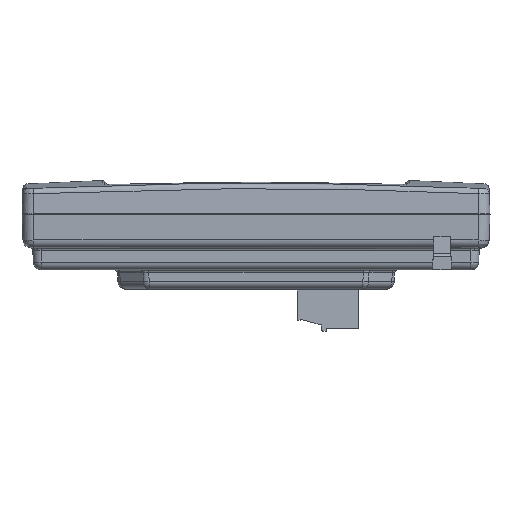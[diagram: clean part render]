
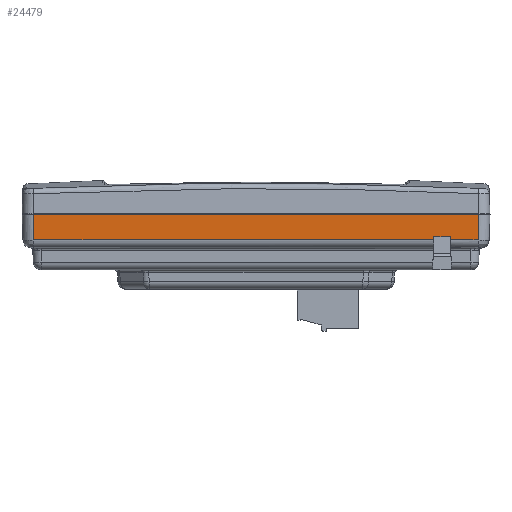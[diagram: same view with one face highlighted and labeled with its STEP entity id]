
A CAD part, left-side view. The second image highlights one B-rep face of the part: STEP entity #24479.
In plain terms, the highlighted planar face has unit normal (-0.999, 0, -0.035).
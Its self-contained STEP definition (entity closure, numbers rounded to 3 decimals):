
#1678=FACE_OUTER_BOUND('',#2989,.T.);
#2989=EDGE_LOOP('',(#19286,#19287,#19288,#19289,#19290,#19291,#19292,#19293));
#5351=LINE('',#41539,#7945);
#5466=LINE('',#42312,#8060);
#5468=LINE('',#42319,#8062);
#5469=LINE('',#42321,#8063);
#5470=LINE('',#42322,#8064);
#5471=LINE('',#42324,#8065);
#5472=LINE('',#42326,#8066);
#5473=LINE('',#42327,#8067);
#7945=VECTOR('',#30525,1000.);
#8060=VECTOR('',#30852,1000.);
#8062=VECTOR('',#30858,1000.);
#8063=VECTOR('',#30859,1000.);
#8064=VECTOR('',#30860,1000.);
#8065=VECTOR('',#30861,1000.);
#8066=VECTOR('',#30862,1000.);
#8067=VECTOR('',#30863,1000.);
#10506=VERTEX_POINT('',#41536);
#10507=VERTEX_POINT('',#41538);
#10673=VERTEX_POINT('',#42311);
#10675=VERTEX_POINT('',#42317);
#10676=VERTEX_POINT('',#42318);
#10677=VERTEX_POINT('',#42320);
#10678=VERTEX_POINT('',#42323);
#10679=VERTEX_POINT('',#42325);
#13437=EDGE_CURVE('',#10506,#10507,#5351,.T.);
#13644=EDGE_CURVE('',#10673,#10506,#5466,.T.);
#13647=EDGE_CURVE('',#10675,#10676,#5468,.T.);
#13648=EDGE_CURVE('',#10675,#10677,#5469,.T.);
#13649=EDGE_CURVE('',#10677,#10507,#5470,.T.);
#13650=EDGE_CURVE('',#10678,#10673,#5471,.T.);
#13651=EDGE_CURVE('',#10678,#10679,#5472,.T.);
#13652=EDGE_CURVE('',#10676,#10679,#5473,.T.);
#19286=ORIENTED_EDGE('',*,*,#13647,.F.);
#19287=ORIENTED_EDGE('',*,*,#13648,.T.);
#19288=ORIENTED_EDGE('',*,*,#13649,.T.);
#19289=ORIENTED_EDGE('',*,*,#13437,.F.);
#19290=ORIENTED_EDGE('',*,*,#13644,.F.);
#19291=ORIENTED_EDGE('',*,*,#13650,.F.);
#19292=ORIENTED_EDGE('',*,*,#13651,.T.);
#19293=ORIENTED_EDGE('',*,*,#13652,.F.);
#22248=PLANE('',#26017);
#24479=ADVANCED_FACE('',(#1678),#22248,.T.);
#26017=AXIS2_PLACEMENT_3D('',#42316,#30856,#30857);
#30525=DIRECTION('',(0.,-1.,0.));
#30852=DIRECTION('',(-0.035,0.035,0.999));
#30856=DIRECTION('center_axis',(-0.999,0.,-0.035));
#30857=DIRECTION('ref_axis',(-0.035,0.,0.999));
#30858=DIRECTION('',(-0.035,0.035,0.999));
#30859=DIRECTION('',(0.,-1.,0.));
#30860=DIRECTION('',(-0.035,-0.035,0.999));
#30861=DIRECTION('',(0.,1.,0.));
#30862=DIRECTION('',(-0.035,-0.035,0.999));
#30863=DIRECTION('',(0.,1.,0.));
#41536=CARTESIAN_POINT('',(-42.5,40.501,2.47));
#41538=CARTESIAN_POINT('',(-42.5,-40.501,2.47));
#41539=CARTESIAN_POINT('',(-42.5,40.501,2.47));
#42311=CARTESIAN_POINT('',(-42.341,40.342,-2.083));
#42312=CARTESIAN_POINT('',(-42.341,40.342,-2.083));
#42316=CARTESIAN_POINT('Origin',(-42.338,0.,-2.174));
#42317=CARTESIAN_POINT('',(-42.341,-35.31,-2.083));
#42318=CARTESIAN_POINT('',(-42.36,-35.29,-1.53));
#42319=CARTESIAN_POINT('',(-42.341,-35.31,-2.083));
#42320=CARTESIAN_POINT('',(-42.341,-40.342,-2.083));
#42321=CARTESIAN_POINT('',(-42.341,-35.31,-2.083));
#42322=CARTESIAN_POINT('',(-42.341,-40.342,-2.083));
#42323=CARTESIAN_POINT('',(-42.341,-32.271,-2.083));
#42324=CARTESIAN_POINT('',(-42.341,-32.271,-2.083));
#42325=CARTESIAN_POINT('',(-42.36,-32.29,-1.53));
#42326=CARTESIAN_POINT('',(-42.341,-32.271,-2.083));
#42327=CARTESIAN_POINT('',(-42.36,-35.29,-1.53));
